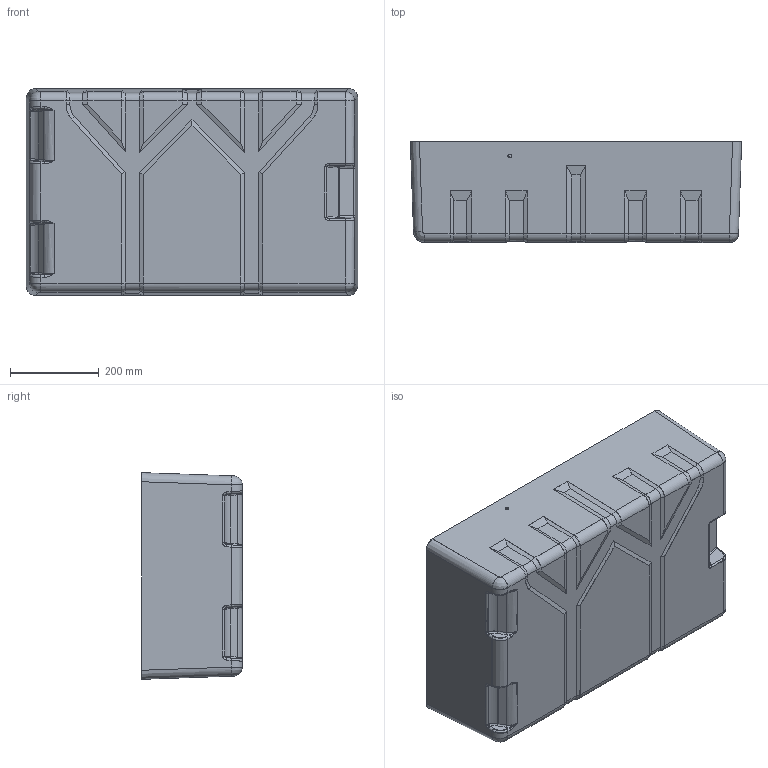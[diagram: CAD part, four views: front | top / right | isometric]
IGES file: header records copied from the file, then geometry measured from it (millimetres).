
Start section: SolidWorks IGES file using analytic representation for surfaces
Global section: file name: C:\temp\EU files dimensions 12-14-15\EU case files in pdf and DXF format\1650 Peli Case Bottom.IGS; native system: SolidWorks 2014; preprocessor: SolidWorks 2014; author: mhakami; date: 160112.104948; units: inch
Bounding box: 745.64 x 227.21 x 465.12 mm (x, y, z)
Surface area: 1679883.5 mm2 (no closed solid volume)
Topology: 0 solids, 0 shells, 377 faces, 2744 edges, 2737 vertices
Faces by surface type: bspline 233, revolution 144
